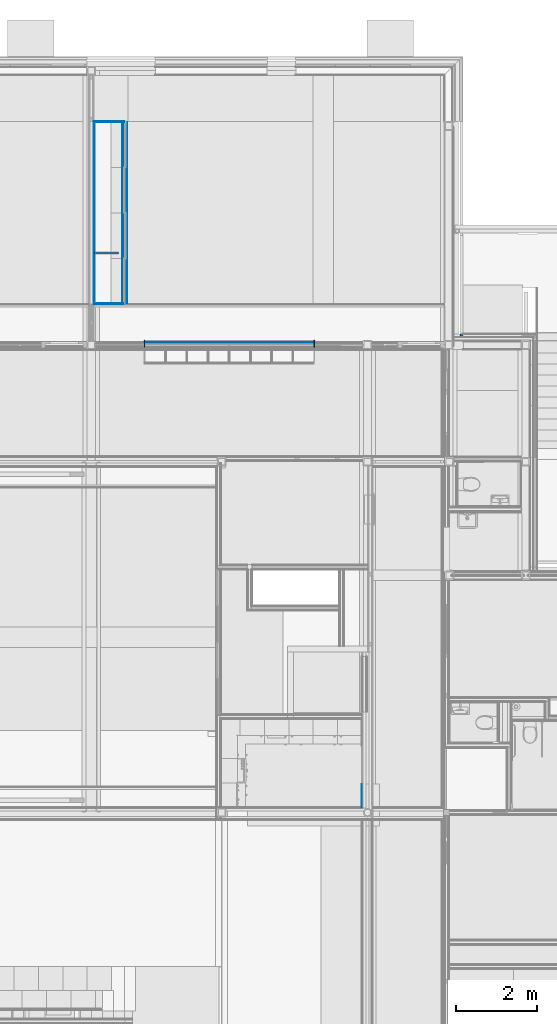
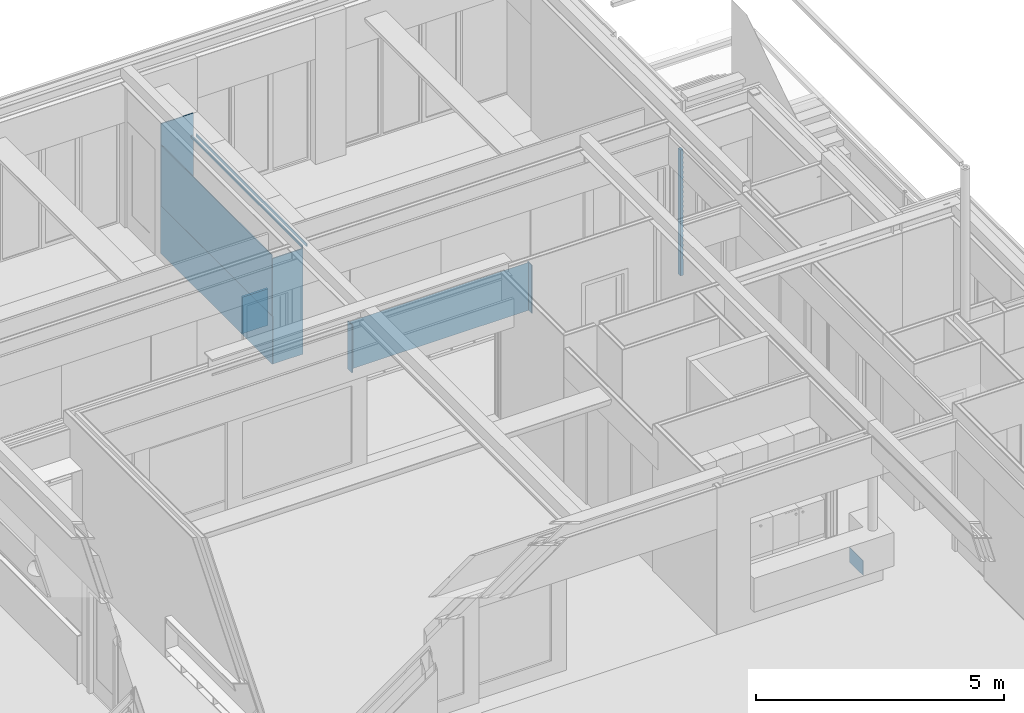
# One storey, part 26 of 165: 12 walls.
"""IFC2X3 building model written with IfcOpenShell, lengths in millimetres."""

import ifcopenshell
import ifcopenshell.guid

model = None  # the IFC model being written
_history = None  # IfcOwnerHistory: only IFC2X3 demands one
_inside = {}  # id of a spatial element -> (the spatial element, [elements in it])
_under = {}  # id of a project, library or spatial element -> (it, [spatial elements below it])
_declared = {}  # id of a project -> (the project, [libraries it declares])
_typed = {}  # id of a type object -> (the type object, [elements of that type])
_made_of = {}  # id of a material, layer set ... -> (it, [elements and type objects made of it])


def new_model(schema):
    """Start an empty IFC model of exactly this schema.

    Asked for "IFC4X3", IfcOpenShell would pick the latest addendum, in which some entities
    have other attributes; the version numbers below select the first issue.
    IFC2X3 requires an IfcOwnerHistory on every rooted entity: one is made here for all.
    """
    global model, _history
    if schema == "IFC4X3":
        model = ifcopenshell.file(schema_version=(4, 3, 0, 0))
    else:
        model = ifcopenshell.file(schema=schema)
    _inside.clear()
    _under.clear()
    _declared.clear()
    _typed.clear()
    _made_of.clear()
    _history = None
    if model.schema == "IFC2X3":
        org = make("IfcOrganization", Name="unknown")
        user = make(
            "IfcPersonAndOrganization",
            ThePerson=make("IfcPerson", FamilyName="unknown"),
            TheOrganization=org,
        )
        app = make(
            "IfcApplication",
            ApplicationDeveloper=org,
            Version="unknown",
            ApplicationFullName="unknown",
            ApplicationIdentifier="unknown",
        )
        _history = make(
            "IfcOwnerHistory",
            OwningUser=user,
            OwningApplication=app,
            ChangeAction="ADDED",
            CreationDate=0,
        )
    return model


def make(cls, **values):
    """One entity of the class cls with the attributes given. An attribute that is None is left unset."""
    return model.create_entity(
        cls, **{name: value for name, value in values.items() if value is not None}
    )


def entity(cls, *values):
    """Any entity or typed value of the class cls, its attributes in the order of the schema. None: left unset."""
    e = model.create_entity(cls)
    for i, value in enumerate(values):
        if value is not None:
            e[i] = value
    return e


def rooted(cls, **values):
    """An entity with a GlobalId (a new one), such as an element, a storey or a relation."""
    return make(cls, GlobalId=ifcopenshell.guid.new(), OwnerHistory=_history, **values)


def si_unit(unit_type, name, prefix=None):
    """IfcSIUnit, for example si_unit("LENGTHUNIT", "METRE", prefix="MILLI")."""
    return make("IfcSIUnit", UnitType=unit_type, Prefix=prefix, Name=name)


def converted_unit(unit_type, name, factor, base, dimensions=None, offset=None):
    """IfcConversionBasedUnit, such as the inch: factor (a typed value) times the base unit."""
    return make(
        "IfcConversionBasedUnit"
        if offset is None
        else "IfcConversionBasedUnitWithOffset",
        ConversionOffset=offset,
        Dimensions=None
        if dimensions is None
        else entity("IfcDimensionalExponents", *dimensions),
        UnitType=unit_type,
        Name=name,
        ConversionFactor=make(
            "IfcMeasureWithUnit", ValueComponent=factor, UnitComponent=base
        ),
    )


def derived_unit(unit_type, elements):
    """IfcDerivedUnit: a product of units, each with its exponent."""
    return make(
        "IfcDerivedUnit",
        Elements=[
            make("IfcDerivedUnitElement", Unit=unit, Exponent=power)
            for unit, power in elements
        ],
        UnitType=unit_type,
    )


def money_unit(currency):
    """IfcMonetaryUnit."""
    return make("IfcMonetaryUnit", Currency=currency)


def assignment(units):
    """IfcUnitAssignment: the units of a project."""
    return None if units is None else make("IfcUnitAssignment", Units=units)


def point(xyz):
    """IfcCartesianPoint."""
    return None if xyz is None else make("IfcCartesianPoint", Coordinates=xyz)


def direction(xyz):
    """IfcDirection."""
    return None if xyz is None else make("IfcDirection", DirectionRatios=xyz)


def frame(location, z_axis=None, x_axis=None):
    """IfcAxis2Placement3D, a coordinate frame: its origin and axes. An axis left out is left unset."""
    return make(
        "IfcAxis2Placement3D",
        Location=point(location),
        Axis=direction(z_axis),
        RefDirection=direction(x_axis),
    )


def origin_with_axes():
    """The frame at (0, 0, 0) with the z axis (0, 0, 1) and the x axis (1, 0, 0) written out."""
    return frame((0.0, 0.0, 0.0), z_axis=(0.0, 0.0, 1.0), x_axis=(1.0, 0.0, 0.0))


def place(relative_to, where):
    """IfcLocalPlacement: puts the frame where relative to a parent placement (None: the world)."""
    return make(
        "IfcLocalPlacement", PlacementRelTo=relative_to, RelativePlacement=where
    )


def context(
    kind, dimensions, precision=None, world=None, true_north=None, identifier=None
):
    """IfcGeometricRepresentationContext, for example the 3D "Model" context."""
    return make(
        "IfcGeometricRepresentationContext",
        ContextIdentifier=identifier,
        ContextType=kind,
        CoordinateSpaceDimension=dimensions,
        Precision=precision,
        WorldCoordinateSystem=world,
        TrueNorth=true_north,
    )


def subcontext(parent, identifier, kind, view, scale=None):
    """IfcGeometricRepresentationSubContext, for example "Body" below "Model"."""
    return make(
        "IfcGeometricRepresentationSubContext",
        ContextIdentifier=identifier,
        ContextType=kind,
        ParentContext=parent,
        TargetScale=scale,
        TargetView=view,
    )


def project(units=None, contexts=None):
    """IfcProject with its units and contexts."""
    return rooted(
        "IfcProject",
        Name="project",
        RepresentationContexts=contexts,
        UnitsInContext=assignment(units),
    )


def spatial(cls, under=None, at=None, **own):
    """A site, building, storey or space (cls), placed at a placement, below another one or the project."""
    s = rooted(cls, ObjectPlacement=at, **own)
    if under is not None:
        _under.setdefault(under.id(), (under, []))[1].append(s)
    return s


def faces_of(points, faces, orient=None, outer=None):
    """IfcFace entities. A face is a list of loops; a loop is a list of indices into points, from 0.

    orient and outer hold one flag for each loop. By default every Orientation is true, the
    first loop of a face is its IfcFaceOuterBound and the others are IfcFaceBound.
    """
    made = []
    for i, loops in enumerate(faces):
        bounds = []
        for j, loop in enumerate(loops):
            is_outer = j == 0 if outer is None else outer[i][j]
            bounds.append(
                make(
                    "IfcFaceOuterBound" if is_outer else "IfcFaceBound",
                    Bound=make("IfcPolyLoop", Polygon=[points[k] for k in loop]),
                    Orientation=True if orient is None else orient[i][j],
                )
            )
        made.append(make("IfcFace", Bounds=bounds))
    return made


def faceted_brep(points, faces, orient=None, outer=None, voids=None):
    """IfcFacetedBrep: a solid bounded by flat faces; with voids (closed shells), ...WithVoids."""
    shared = [point(p) for p in points]
    hull = make("IfcClosedShell", CfsFaces=faces_of(shared, faces, orient, outer))
    if voids is None:
        return make("IfcFacetedBrep", Outer=hull)
    return make(
        "IfcFacetedBrepWithVoids",
        Outer=hull,
        Voids=[
            make(cls, CfsFaces=faces_of(shared, fs, o, b)) for cls, fs, o, b in voids
        ],
    )


def shape(context_of_items, identifier, shape_type, items):
    """IfcShapeRepresentation: the items that make up one representation, for example the "Body"."""
    return make(
        "IfcShapeRepresentation",
        ContextOfItems=context_of_items,
        RepresentationIdentifier=identifier,
        RepresentationType=shape_type,
        Items=items,
    )


def material(Name=None, Category=None):
    """IfcMaterial."""
    return make("IfcMaterial", Name=Name, Category=Category)


def made_of(thing, what):
    """Note that an element or type object is made of a material, layer set ...; save() writes the relation."""
    if what is not None:
        _made_of.setdefault(what.id(), (what, []))[1].append(thing)
    return thing


def type_object(cls, material=None, **own):
    """A type object (cls), such as IfcWallType, which elements share."""
    return made_of(rooted(cls, **own), material)


def element(
    cls,
    number,
    at=None,
    inside=None,
    cuts=None,
    type_object=None,
    material=None,
    context=None,
    identifier="Body",
    shape_type=None,
    held_by="IfcProductDefinitionShape",
    body=None,
    shapes=None,
    **own,
):
    """One element of the class cls, such as IfcWall. Its Tag is "e" and its number.

    at: its placement. inside: the storey or other place that contains it. cuts: it is an
    opening in that element (IfcRelVoidsElement). A single representation is given by context,
    identifier, shape_type and body (its items); several are given by shapes. held_by: the class
    of the entity that holds the representations. save() writes the other relations.
    """
    e = rooted(cls, Tag="e%d" % number, ObjectPlacement=at, **own)
    if body is not None:
        shapes = [shape(context, identifier, shape_type, body)]
    if shapes is not None:
        e.Representation = make(held_by, Representations=shapes)
    if inside is not None:
        _inside.setdefault(inside.id(), (inside, []))[1].append(e)
    if cuts is not None:
        rooted(
            "IfcRelVoidsElement", RelatingBuildingElement=cuts, RelatedOpeningElement=e
        )
    if type_object is not None:
        _typed.setdefault(type_object.id(), (type_object, []))[1].append(e)
    return made_of(e, material)


def aggregate(whole, parts):
    """IfcRelAggregates: a whole, such as a stair, and the parts it consists of."""
    return rooted("IfcRelAggregates", RelatingObject=whole, RelatedObjects=parts)


def save(model, path):
    """Write the relations noted so far, then the file.

    IfcRelAggregates (storeys below a building ...), IfcRelContainedInSpatialStructure (elements
    in a storey), IfcRelDefinesByType, IfcRelAssociatesMaterial and IfcRelDeclares: one each for
    every whole, place, type object, material and project.
    """
    for whole, parts in _under.values():
        aggregate(whole, parts)
    for where, things in _inside.values():
        rooted(
            "IfcRelContainedInSpatialStructure",
            RelatedElements=things,
            RelatingStructure=where,
        )
    for kind, things in _typed.values():
        rooted("IfcRelDefinesByType", RelatedObjects=things, RelatingType=kind)
    for what, things in _made_of.values():
        rooted("IfcRelAssociatesMaterial", RelatedObjects=things, RelatingMaterial=what)
    for by, libraries in _declared.values():
        rooted("IfcRelDeclares", RelatingContext=by, RelatedDefinitions=libraries)
    model.write(path)


model = new_model("IFC2X3")

# Units and contexts
model_context = context("Model", 3, precision=0.01, world=origin_with_axes(), true_north=direction((0.0, 1.0)))
body_context = subcontext(model_context, "Body", "Model", "MODEL_VIEW")
ifc_project = project(units=[si_unit("LENGTHUNIT", "METRE", prefix="MILLI"), si_unit("AREAUNIT", "SQUARE_METRE"), si_unit("VOLUMEUNIT", "CUBIC_METRE"), converted_unit("PLANEANGLEUNIT", "DEGREE", entity("IfcPlaneAngleMeasure", 0.0174532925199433), si_unit("PLANEANGLEUNIT", "RADIAN"), dimensions=[0, 0, 0, 0, 0, 0, 0]), money_unit("EUR"), converted_unit("TIMEUNIT", "Year", entity("IfcTimeMeasure", 31556926.0), si_unit("TIMEUNIT", "SECOND"), dimensions=[0, 0, 1, 0, 0, 0, 0]), si_unit("MASSUNIT", "GRAM", prefix="KILO"), si_unit("THERMODYNAMICTEMPERATUREUNIT", "DEGREE_CELSIUS"), si_unit("LUMINOUSINTENSITYUNIT", "LUMEN"), si_unit("ENERGYUNIT", "JOULE", prefix="MEGA"), derived_unit("THERMALCONDUCTANCEUNIT", [(si_unit("POWERUNIT", "WATT"), 1), (si_unit("LENGTHUNIT", "METRE"), -1), (si_unit("THERMODYNAMICTEMPERATUREUNIT", "KELVIN"), -1)]), derived_unit("SPECIFICHEATCAPACITYUNIT", [(si_unit("ENERGYUNIT", "JOULE"), 1), (si_unit("MASSUNIT", "GRAM", prefix="KILO"), -1), (si_unit("THERMODYNAMICTEMPERATUREUNIT", "KELVIN"), -1)]), derived_unit("MASSDENSITYUNIT", [(si_unit("MASSUNIT", "GRAM", prefix="KILO"), 1), (si_unit("VOLUMEUNIT", "CUBIC_METRE"), -1)])], contexts=[model_context])

# Site, building, storey
site_placement = place(None, origin_with_axes())
site = spatial("IfcSite", under=ifc_project, at=site_placement, Name="Site", CompositionType="ELEMENT")
building_placement = place(site_placement, origin_with_axes())
building = spatial("IfcBuilding", under=site, at=building_placement, Name="Naam gebouw", CompositionType="ELEMENT")
storey_placement = place(building_placement, origin_with_axes())
storey = spatial("IfcBuildingStorey", under=building, at=storey_placement, Name="Begane grond", CompositionType="ELEMENT", Elevation=0.0)

# Walls
ifc_material_1 = material(Name="ALG - ALGEMEEN")
wall_type_1 = type_object("IfcWallType", Name="ALG - ALGEMEEN 5", PredefinedType="NOTDEFINED")
wall_1_placement = place(storey_placement, frame((24364.99907625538, 11504.9978722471, 2.000000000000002), z_axis=(0.0, 0.0, 1.0), x_axis=(0.0, -1.0, 0.0)))
element("IfcWall", 1, at=wall_1_placement, inside=storey, type_object=wall_type_1, material=ifc_material_1, Name="21_Wand-x", context=body_context, shape_type="Brep", body=[
    faceted_brep([(0.0, 0.0, 0.0), (0.0, -4.999999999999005, 0.0), (0.0, -4.999999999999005, 368.0), (0.0, 0.0, 368.0), (559.999058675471, 0.0, 0.0), (559.9990555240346, -4.999999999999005, 0.0), (559.9990555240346, -4.999999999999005, 368.0), (558.9972844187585, -4.999999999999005, 368.0), (559.999058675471, 0.0, 368.0)], [[[0, 1, 2, 3]], [[1, 0, 4, 5]], [[5, 6, 7, 2, 1]], [[7, 6, 8, 3, 2]], [[4, 0, 3, 8]], [[5, 4, 8, 6]]]),
])
ifc_material_2 = material(Name="Kurk")
wall_type_2 = type_object("IfcWallType", Name="Kurk 6", PredefinedType="NOTDEFINED")
wall_2_placement = place(storey_placement, frame((19019.99919486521, 22387.47926947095, 0.0), z_axis=(0.0, 0.0, 1.0), x_axis=(1.0, 0.0, 0.0)))
element("IfcWall", 2, at=wall_2_placement, inside=storey, type_object=wall_type_2, material=ifc_material_2, Name="21_Wand-x", context=body_context, shape_type="Brep", body=[
    faceted_brep([(0.0, 6.000000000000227, 0.0), (4159.999904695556, 6.000000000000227, 0.0), (4159.999904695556, 0.0, 0.0), (0.0, 0.0, 0.0), (0.0, 6.000000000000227, 1180.0), (4159.999904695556, 6.000000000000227, 1180.0), (4159.999904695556, 0.0, 1180.0), (0.0, 0.0, 1180.0)], [[[0, 1, 2, 3]], [[4, 5, 1, 0]], [[2, 1, 5, 6]], [[3, 2, 6, 7]], [[4, 0, 3, 7]], [[7, 6, 5, 4]]]),
])
ifc_material_3 = material(Name="Hout - Multiplex")
wall_type_3 = type_object("IfcWallType", Name="Hout - Multiplex 20", PredefinedType="NOTDEFINED")
wall_3_placement = place(storey_placement, frame((18482.49942456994, 23347.99984707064, 0.0), z_axis=(0.0, 0.0, 1.0), x_axis=(-1.0, 0.0, 0.0)))
element("IfcWall", 3, at=wall_3_placement, inside=storey, type_object=wall_type_3, material=ifc_material_3, Name="21_Wand-x", context=body_context, shape_type="Brep", body=[
    faceted_brep([(719.9999999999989, 0.0, 0.0), (719.9999999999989, 0.0, 2.000000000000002), (699.9999999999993, 0.0, 2.000000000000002), (699.9999999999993, 0.0, 1182.0), (719.9999999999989, 0.0, 1182.0), (719.9999999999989, 0.0, 2600.0), (0.0, 0.0, 2600.0), (0.0, 0.0, 0.0), (719.9999999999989, 19.99999999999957, 0.0), (719.9999999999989, 19.99999999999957, 2.000000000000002), (699.9999999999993, 19.99999999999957, 2.000000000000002), (699.9999999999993, 19.99999999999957, 1182.0), (719.9999999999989, 19.99999999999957, 1182.0), (719.9999999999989, 19.99999999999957, 2600.0), (0.0, 19.99999999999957, 2600.0), (0.0, 19.99999999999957, 0.0)], [[[0, 1, 2, 3, 4, 5, 6, 7]], [[8, 9, 1, 0]], [[10, 2, 1, 9]], [[11, 3, 2, 10]], [[12, 4, 3, 11]], [[5, 4, 12, 13]], [[14, 6, 5, 13]], [[7, 6, 14, 15]], [[7, 15, 8, 0]], [[11, 10, 9, 8, 15, 14, 13, 12]]]),
])
wall_4_placement = place(storey_placement, frame((18512.49942456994, 27807.99984707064, 0.0), z_axis=(0.0, 0.0, 1.0), x_axis=(-1.0, 0.0, 0.0)))
element("IfcWall", 4, at=wall_4_placement, inside=storey, type_object=wall_type_3, material=ifc_material_3, Name="21_Wand-x", context=body_context, shape_type="Brep", body=[
    faceted_brep([(750.0, -19.99999999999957, 0.0), (750.0, -19.99999999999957, 2.000000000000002), (730.0000000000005, -19.99999999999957, 2.000000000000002), (730.0000000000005, -19.99999999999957, 1182.0), (750.0, -19.99999999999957, 1182.0), (750.0, -19.99999999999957, 3200.0), (0.0, -19.99999999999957, 3200.0), (0.0, -19.99999999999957, 0.0), (750.0, 0.0, 0.0), (750.0, 0.0, 2.000000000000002), (730.0000000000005, 0.0, 2.000000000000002), (730.0000000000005, 0.0, 1182.0), (750.0, 0.0, 1182.0), (750.0, 0.0, 3200.0), (0.0, 0.0, 3200.0), (0.0, 0.0, 0.0)], [[[0, 1, 2, 3, 4, 5, 6, 7]], [[8, 9, 1, 0]], [[10, 2, 1, 9]], [[11, 3, 2, 10]], [[12, 4, 3, 11]], [[5, 4, 12, 13]], [[14, 6, 5, 13]], [[14, 15, 7, 6]], [[7, 15, 8, 0]], [[11, 10, 9, 8, 15, 14, 13, 12]]]),
])
wall_5_placement = place(storey_placement, frame((17764.49942456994, 23347.99984707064, 1182.0), z_axis=(0.0, 0.0, 1.0), x_axis=(0.0, 1.0, 0.0)))
element("IfcWall", 5, at=wall_5_placement, inside=storey, type_object=wall_type_3, material=ifc_material_3, Name="21_Wand-x", context=body_context, shape_type="Brep", body=[
    faceted_brep([(0.0, 0.0, 1488.0), (0.0, 0.0, 1418.0), (0.0, -19.99999999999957, 1418.0), (0.0, -19.99999999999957, 1488.0), (4460.000000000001, 0.0, 0.0), (0.0, 0.0, 0.0), (4460.000000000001, 0.0, 1488.0), (0.0, -19.99999999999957, 0.0), (4460.000000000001, -19.99999999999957, 0.0), (4460.000000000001, -19.99999999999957, 1488.0)], [[[0, 1, 2, 3]], [[4, 5, 1, 0, 6]], [[5, 7, 2, 1]], [[3, 2, 7, 8, 9]], [[9, 6, 0, 3]], [[8, 7, 5, 4]], [[6, 9, 8, 4]]]),
])
wall_6_placement = place(storey_placement, frame((17762.49942456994, 23347.99984707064, 2.0), z_axis=(0.0, 0.0, 1.0), x_axis=(0.0, 1.0, 0.0)))
element("IfcWall", 6, at=wall_6_placement, inside=storey, type_object=wall_type_3, material=ifc_material_3, Name="21_Wand-x", context=body_context, shape_type="Brep", body=[
    faceted_brep([(4480.0, -19.99999999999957, 1180.0), (4480.0, 0.0, 1180.0), (-19.99999999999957, 0.0, 1180.0), (-19.99999999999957, -19.99999999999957, 1180.0), (4480.0, -19.99999999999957, 0.0), (4480.0, 0.0, 0.0), (-19.99999999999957, 0.0, 0.0), (-19.99999999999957, -19.99999999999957, 0.0)], [[[0, 1, 2, 3]], [[1, 0, 4, 5]], [[1, 5, 6, 2]], [[7, 3, 2, 6]], [[4, 0, 3, 7]], [[5, 4, 7, 6]]]),
])
wall_7_placement = place(storey_placement, frame((18464.49942456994, 23347.99984707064, 2600.0), z_axis=(0.0, 0.0, 1.0), x_axis=(0.0, 1.0, 0.0)))
element("IfcWall", 7, at=wall_7_placement, inside=storey, type_object=wall_type_3, material=ifc_material_3, Name="21_Wand-x", context=body_context, shape_type="Brep", body=[
    faceted_brep([(4460.000000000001, -19.99999999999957, 69.99999999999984), (4460.000000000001, 0.0, 69.99999999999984), (0.0, 0.0, 69.99999999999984), (0.0, -19.99999999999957, 69.99999999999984), (4460.000000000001, -19.99999999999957, 0.0), (4460.000000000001, 0.0, 0.0), (0.0, 0.0, 0.0), (0.0, -19.99999999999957, 0.0)], [[[0, 1, 2, 3]], [[1, 0, 4, 5]], [[1, 5, 6, 2]], [[7, 3, 2, 6]], [[4, 0, 3, 7]], [[5, 4, 7, 6]]]),
])
wall_8_placement = place(storey_placement, frame((18569.49942456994, 23347.99984707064, 2600.0), z_axis=(0.0, 0.0, 1.0), x_axis=(0.0, 1.0, 0.0)))
element("IfcWall", 8, at=wall_8_placement, inside=storey, type_object=wall_type_3, material=ifc_material_3, Name="21_Wand-x", context=body_context, shape_type="Brep", body=[
    faceted_brep([(0.0, -19.99999999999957, 69.99999999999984), (4460.000000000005, -19.99999999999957, 69.99999999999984), (4460.000000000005, 0.0, 69.99999999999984), (0.0, 0.0, 69.99999999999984), (0.0, -19.99999999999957, 0.0), (4460.000000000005, -19.99999999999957, 0.0), (4460.000000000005, 0.0, 0.0), (0.0, 0.0, 0.0)], [[[0, 1, 2, 3]], [[4, 5, 1, 0]], [[2, 1, 5, 6]], [[3, 2, 6, 7]], [[4, 0, 3, 7]], [[7, 6, 5, 4]]]),
])
wall_9_placement = place(storey_placement, frame((23199.99909956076, 22262.47925041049, 0.0), z_axis=(0.0, 0.0, 1.0), x_axis=(0.0, 1.0, 0.0)))
element("IfcWall", 9, at=wall_9_placement, inside=storey, type_object=wall_type_3, material=ifc_material_3, Name="21_Wand-x", context=body_context, shape_type="Brep", body=[
    faceted_brep([(174.9999999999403, 19.99999999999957, 0.0), (174.9999999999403, 19.99999999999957, 1180.000000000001), (174.9999999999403, 0.0, 1180.000000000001), (174.9999999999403, 0.0, 0.0), (0.0, 19.99999999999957, 0.0), (0.0, 19.99999999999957, 1180.000000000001), (0.0, 0.0, 1180.000000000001), (0.0, 0.0, 0.0)], [[[0, 1, 2, 3]], [[4, 5, 1, 0]], [[5, 6, 2, 1]], [[3, 2, 6, 7]], [[7, 4, 0, 3]], [[7, 6, 5, 4]]]),
])
wall_10_placement = place(storey_placement, frame((18999.99886130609, 22262.48325312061, 0.0), z_axis=(0.0, 0.0, 1.0), x_axis=(1.906052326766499e-06, 0.9999999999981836, 0.0)))
element("IfcWall", 10, at=wall_10_placement, inside=storey, type_object=wall_type_3, material=ifc_material_3, Name="21_Wand-x", context=body_context, shape_type="Brep", body=[
    faceted_brep([(174.9999999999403, 0.0, 0.0), (174.9959972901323, -7.627676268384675e-09, 1180.000000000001), (174.9960354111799, -20.0000000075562, 1180.000000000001), (174.9999999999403, -19.99999999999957, 0.0), (0.0, 0.0, 0.0), (-0.004002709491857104, -0.0003335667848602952, 1180.000000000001), (-0.003964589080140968, -20.0000000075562, 1180.000000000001), (0.0, -19.99999999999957, 0.0)], [[[0, 1, 2, 3]], [[4, 5, 1, 0]], [[5, 6, 2, 1]], [[3, 2, 6, 7]], [[7, 4, 0, 3]], [[7, 6, 5, 4]]]),
])
ifc_material_4 = material(Name="Steen - Baksteen")
wall_type_4 = type_object("IfcWallType", Name="Steen - Baksteen 70", PredefinedType="NOTDEFINED")
wall_11_placement = place(storey_placement, frame((26850.0, 22592.97623767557, -485.0), z_axis=(0.0, 0.0, 1.0), x_axis=(0.0, -1.0, 0.0)))
element("IfcWall", 11, at=wall_11_placement, inside=storey, type_object=wall_type_4, material=ifc_material_4, Name="21_Wand-x", context=body_context, shape_type="Brep", body=[
    faceted_brep([(0.0, 0.0, 514.9999766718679), (90.99999999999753, 0.0, 514.9999766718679), (90.99999999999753, 0.0, 465.0000396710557), (0.0, 0.0, 465.0000396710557), (0.0, -4.999977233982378, 514.9999766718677), (90.99999999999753, -4.999977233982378, 514.9999766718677), (90.99999999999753, -4.999977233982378, 3035.000036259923), (90.99999999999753, -4.999977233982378, 3095.000008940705), (90.99999999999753, -70.00000000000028, 3095.0), (90.99999999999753, -70.00000000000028, 0.0), (90.99999999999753, 0.0, 0.0), (90.99999999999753, 0.0, 395.0000313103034), (90.99999999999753, -4.999977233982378, 395.0000313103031), (90.99999999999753, -4.999977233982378, 465.0000396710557), (90.99999999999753, -4.999977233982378, 584.999944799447), (90.99999999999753, 0.0, 584.999944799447), (90.99999999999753, 0.0, 635.0000427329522), (90.99999999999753, -4.999977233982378, 635.0000427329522), (90.99999999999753, -4.999977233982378, 705.0000108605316), (90.99999999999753, 0.0, 705.0000108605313), (90.99999999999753, 0.0, 754.9999478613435), (90.99999999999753, -4.999977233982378, 754.9999478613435), (90.99999999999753, -4.999977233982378, 824.9999562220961), (90.99999999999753, 0.0, 824.9999562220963), (90.99999999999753, 0.0, 875.0000139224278), (90.99999999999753, -4.999977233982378, 875.0000139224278), (90.99999999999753, -4.999977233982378, 945.0000222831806), (90.99999999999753, 0.0, 945.0000222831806), (90.99999999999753, 0.0, 994.999999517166), (90.99999999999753, -4.999977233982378, 994.9999995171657), (90.99999999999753, -4.999977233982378, 1064.999927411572), (90.99999999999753, 0.0, 1064.999927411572), (90.99999999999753, 0.0, 1115.000025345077), (90.99999999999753, -4.999977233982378, 1115.000025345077), (90.99999999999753, -4.999977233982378, 1184.999993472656), (90.99999999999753, 0.0, 1184.999993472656), (90.99999999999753, 0.0, 1234.999970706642), (90.99999999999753, -4.999977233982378, 1234.999970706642), (90.99999999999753, -4.999977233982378, 1304.999979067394), (90.99999999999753, 0.0, 1304.999979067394), (90.99999999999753, 0.0, 1354.999996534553), (90.99999999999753, -4.999977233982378, 1354.999996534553), (90.99999999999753, -4.999977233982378, 1425.000004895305), (90.99999999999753, 0.0, 1425.000004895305), (90.99999999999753, 0.0, 1474.999982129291), (90.99999999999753, -4.999977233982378, 1474.999982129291), (90.99999999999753, -4.999977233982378, 1544.99995025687), (90.99999999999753, 0.0, 1544.99995025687), (90.99999999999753, 0.0, 1595.000007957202), (90.99999999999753, -4.999977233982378, 1595.000007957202), (90.99999999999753, -4.999977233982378, 1664.999976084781), (90.99999999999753, 0.0, 1664.999976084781), (90.99999999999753, 0.0, 1714.999993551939), (90.99999999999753, -4.999977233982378, 1714.999993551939), (90.99999999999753, -4.999977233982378, 1784.999961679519), (90.99999999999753, 0.0, 1784.999961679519), (90.99999999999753, 0.0, 1835.000019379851), (90.99999999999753, -4.999977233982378, 1835.000019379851), (90.99999999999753, -4.999977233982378, 1905.000027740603), (90.99999999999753, 0.0, 1905.000027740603), (90.99999999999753, 0.0, 1954.999964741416), (90.99999999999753, -4.999977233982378, 1954.999964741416), (90.99999999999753, -4.999977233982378, 2024.999973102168), (90.99999999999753, 0.0, 2024.999973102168), (90.99999999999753, 0.0, 2075.0000308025), (90.99999999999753, -4.999977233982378, 2075.0000308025), (90.99999999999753, -4.999977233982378, 2144.99999893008), (90.99999999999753, 0.0, 2144.99999893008), (90.99999999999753, 0.0, 2194.999976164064), (90.99999999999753, -4.999977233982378, 2194.999976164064), (90.99999999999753, -4.999977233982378, 2264.999944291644), (90.99999999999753, 0.0, 2264.999944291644), (90.99999999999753, 0.0, 2315.000001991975), (90.99999999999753, -4.999977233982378, 2315.000001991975), (90.99999999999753, -4.999977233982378, 2385.000010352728), (90.99999999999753, 0.0, 2385.000010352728), (90.99999999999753, 0.0, 2434.999987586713), (90.99999999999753, -4.999977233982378, 2434.999987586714), (90.99999999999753, -4.999977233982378, 2504.999995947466), (90.99999999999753, 0.0, 2504.999995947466), (90.99999999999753, 0.0, 2555.000013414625), (90.99999999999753, -4.999977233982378, 2555.000013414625), (90.99999999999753, -4.999977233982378, 2625.000021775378), (90.99999999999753, 0.0, 2625.000021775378), (90.99999999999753, 0.0, 2674.999999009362), (90.99999999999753, -4.999977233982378, 2674.999999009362), (90.99999999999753, -4.999977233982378, 2744.999967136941), (90.99999999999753, 0.0, 2744.999967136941), (90.99999999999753, 0.0, 2795.000024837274), (90.99999999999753, -4.999977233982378, 2795.000024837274), (90.99999999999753, -4.999977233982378, 2864.999992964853), (90.99999999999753, 0.0, 2864.999992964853), (90.99999999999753, 0.0, 2914.999970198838), (90.99999999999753, -4.999977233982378, 2914.999970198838), (90.99999999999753, -4.999977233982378, 2984.999978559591), (90.99999999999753, 0.0, 2984.999978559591), (90.99999999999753, 0.0, 3035.000036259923), (0.0, -4.999977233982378, 465.0000396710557), (0.0, -4.999977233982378, 3095.000008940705), (0.0, -4.999977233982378, 3035.000036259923), (0.0, 0.0, 3035.000036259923), (0.0, 0.0, 2984.999978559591), (0.0, -4.999977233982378, 2984.999978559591), (0.0, -4.999977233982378, 2914.999970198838), (0.0, 0.0, 2914.999970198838), (0.0, 0.0, 2864.999992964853), (0.0, -4.999977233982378, 2864.999992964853), (0.0, -4.999977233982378, 2795.000024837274), (0.0, 0.0, 2795.000024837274), (0.0, 0.0, 2744.999967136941), (0.0, -4.999977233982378, 2744.999967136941), (0.0, -4.999977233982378, 2674.999999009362), (0.0, 0.0, 2674.999999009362), (0.0, 0.0, 2625.000021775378), (0.0, -4.999977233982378, 2625.000021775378), (0.0, -4.999977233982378, 2555.000013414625), (0.0, 0.0, 2555.000013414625), (0.0, 0.0, 2504.999995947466), (0.0, -4.999977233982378, 2504.999995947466), (0.0, -4.999977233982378, 2434.999987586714), (0.0, 0.0, 2434.999987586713), (0.0, 0.0, 2385.000010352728), (0.0, -4.999977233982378, 2385.000010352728), (0.0, -4.999977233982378, 2315.000001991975), (0.0, 0.0, 2315.000001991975), (0.0, 0.0, 2264.999944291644), (0.0, -4.999977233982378, 2264.999944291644), (0.0, -4.999977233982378, 2194.999976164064), (0.0, 0.0, 2194.999976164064), (0.0, 0.0, 2144.99999893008), (0.0, -4.999977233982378, 2144.99999893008), (0.0, -4.999977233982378, 2075.0000308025), (0.0, 0.0, 2075.0000308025), (0.0, 0.0, 2024.999973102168), (0.0, -4.999977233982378, 2024.999973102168), (0.0, -4.999977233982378, 1954.999964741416), (0.0, 0.0, 1954.999964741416), (0.0, 0.0, 1905.000027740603), (0.0, -4.999977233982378, 1905.000027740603), (0.0, -4.999977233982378, 1835.000019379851), (0.0, 0.0, 1835.000019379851), (0.0, 0.0, 1784.999961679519), (0.0, -4.999977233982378, 1784.999961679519), (0.0, -4.999977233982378, 1714.999993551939), (0.0, 0.0, 1714.999993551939), (0.0, 0.0, 1664.999976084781), (0.0, -4.999977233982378, 1664.999976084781), (0.0, -4.999977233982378, 1595.000007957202), (0.0, 0.0, 1595.000007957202), (0.0, 0.0, 1544.99995025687), (0.0, -4.999977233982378, 1544.99995025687), (0.0, -4.999977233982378, 1474.999982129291), (0.0, 0.0, 1474.999982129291), (0.0, 0.0, 1425.000004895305), (0.0, -4.999977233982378, 1425.000004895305), (0.0, -4.999977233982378, 1354.999996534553), (0.0, 0.0, 1354.999996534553), (0.0, 0.0, 1304.999979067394), (0.0, -4.999977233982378, 1304.999979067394), (0.0, -4.999977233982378, 1234.999970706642), (0.0, 0.0, 1234.999970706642), (0.0, 0.0, 1184.999993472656), (0.0, -4.999977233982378, 1184.999993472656), (0.0, -4.999977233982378, 1115.000025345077), (0.0, 0.0, 1115.000025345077), (0.0, 0.0, 1064.999927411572), (0.0, -4.999977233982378, 1064.999927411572), (0.0, -4.999977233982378, 994.9999995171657), (0.0, 0.0, 994.999999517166), (0.0, 0.0, 945.0000222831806), (0.0, -4.999977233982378, 945.0000222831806), (0.0, -4.999977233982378, 875.0000139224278), (0.0, 0.0, 875.0000139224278), (0.0, 0.0, 824.9999562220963), (0.0, -4.999977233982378, 824.9999562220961), (0.0, -4.999977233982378, 754.9999478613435), (0.0, 0.0, 754.9999478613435), (0.0, 0.0, 705.0000108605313), (0.0, -4.999977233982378, 705.0000108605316), (0.0, -4.999977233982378, 635.0000427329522), (0.0, 0.0, 635.0000427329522), (0.0, 0.0, 584.999944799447), (0.0, -4.999977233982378, 584.999944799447), (0.0, -4.999977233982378, 395.0000313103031), (0.0, 0.0, 395.0000313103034), (0.0, 0.0, 0.0), (0.0, -70.00000000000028, 0.0), (0.0, -70.00000000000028, 3095.0)], [[[0, 1, 2, 3]], [[1, 0, 4, 5]], [[6, 7, 8, 9, 10, 11, 12, 13, 2, 1, 5, 14, 15, 16, 17, 18, 19, 20, 21, 22, 23, 24, 25, 26, 27, 28, 29, 30, 31, 32, 33, 34, 35, 36, 37, 38, 39, 40, 41, 42, 43, 44, 45, 46, 47, 48, 49, 50, 51, 52, 53, 54, 55, 56, 57, 58, 59, 60, 61, 62, 63, 64, 65, 66, 67, 68, 69, 70, 71, 72, 73, 74, 75, 76, 77, 78, 79, 80, 81, 82, 83, 84, 85, 86, 87, 88, 89, 90, 91, 92, 93, 94, 95, 96]], [[97, 3, 2, 13]], [[98, 99, 100, 101, 102, 103, 104, 105, 106, 107, 108, 109, 110, 111, 112, 113, 114, 115, 116, 117, 118, 119, 120, 121, 122, 123, 124, 125, 126, 127, 128, 129, 130, 131, 132, 133, 134, 135, 136, 137, 138, 139, 140, 141, 142, 143, 144, 145, 146, 147, 148, 149, 150, 151, 152, 153, 154, 155, 156, 157, 158, 159, 160, 161, 162, 163, 164, 165, 166, 167, 168, 169, 170, 171, 172, 173, 174, 175, 176, 177, 178, 179, 180, 181, 182, 4, 0, 3, 97, 183, 184, 185, 186, 187]], [[4, 182, 14, 5]], [[99, 98, 7, 6]], [[7, 98, 187, 8]], [[187, 186, 9, 8]], [[186, 185, 10, 9]], [[184, 11, 10, 185]], [[11, 184, 183, 12]], [[183, 97, 13, 12]], [[182, 181, 15, 14]], [[180, 16, 15, 181]], [[16, 180, 179, 17]], [[179, 178, 18, 17]], [[178, 177, 19, 18]], [[176, 20, 19, 177]], [[20, 176, 175, 21]], [[175, 174, 22, 21]], [[174, 173, 23, 22]], [[172, 24, 23, 173]], [[24, 172, 171, 25]], [[171, 170, 26, 25]], [[170, 169, 27, 26]], [[168, 28, 27, 169]], [[28, 168, 167, 29]], [[167, 166, 30, 29]], [[166, 165, 31, 30]], [[164, 32, 31, 165]], [[32, 164, 163, 33]], [[163, 162, 34, 33]], [[162, 161, 35, 34]], [[160, 36, 35, 161]], [[36, 160, 159, 37]], [[159, 158, 38, 37]], [[158, 157, 39, 38]], [[156, 40, 39, 157]], [[40, 156, 155, 41]], [[155, 154, 42, 41]], [[154, 153, 43, 42]], [[152, 44, 43, 153]], [[44, 152, 151, 45]], [[151, 150, 46, 45]], [[150, 149, 47, 46]], [[148, 48, 47, 149]], [[48, 148, 147, 49]], [[147, 146, 50, 49]], [[146, 145, 51, 50]], [[144, 52, 51, 145]], [[52, 144, 143, 53]], [[143, 142, 54, 53]], [[142, 141, 55, 54]], [[140, 56, 55, 141]], [[56, 140, 139, 57]], [[139, 138, 58, 57]], [[138, 137, 59, 58]], [[136, 60, 59, 137]], [[60, 136, 135, 61]], [[135, 134, 62, 61]], [[134, 133, 63, 62]], [[132, 64, 63, 133]], [[64, 132, 131, 65]], [[131, 130, 66, 65]], [[130, 129, 67, 66]], [[128, 68, 67, 129]], [[68, 128, 127, 69]], [[127, 126, 70, 69]], [[126, 125, 71, 70]], [[124, 72, 71, 125]], [[72, 124, 123, 73]], [[123, 122, 74, 73]], [[122, 121, 75, 74]], [[120, 76, 75, 121]], [[76, 120, 119, 77]], [[119, 118, 78, 77]], [[118, 117, 79, 78]], [[116, 80, 79, 117]], [[80, 116, 115, 81]], [[115, 114, 82, 81]], [[114, 113, 83, 82]], [[112, 84, 83, 113]], [[84, 112, 111, 85]], [[111, 110, 86, 85]], [[110, 109, 87, 86]], [[108, 88, 87, 109]], [[88, 108, 107, 89]], [[107, 106, 90, 89]], [[106, 105, 91, 90]], [[104, 92, 91, 105]], [[92, 104, 103, 93]], [[103, 102, 94, 93]], [[102, 101, 95, 94]], [[100, 96, 95, 101]], [[96, 100, 99, 6]]]),
])
wall_type_5 = type_object("IfcWallType", Name="Hout - Multiplex 50", PredefinedType="NOTDEFINED")
wall_12_placement = place(storey_placement, frame((18373.49942456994, 24607.99984707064, 0.0), z_axis=(0.0, 0.0, 1.0), x_axis=(-1.0, 0.0, 0.0)))
element("IfcWall", 12, at=wall_12_placement, inside=storey, type_object=wall_type_5, material=ifc_material_3, Name="21_Wand-x", context=body_context, shape_type="Brep", body=[
    faceted_brep([(611.0000000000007, 0.0, 0.0), (611.0000000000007, 0.0, 2.000000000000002), (591.0000000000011, 0.0, 2.000000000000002), (591.0000000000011, 0.0, 900.0), (0.0, 0.0, 900.0), (0.0, 0.0, 0.0), (611.0000000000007, 50.00000000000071, 0.0), (611.0000000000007, 50.00000000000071, 2.000000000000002), (591.0000000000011, 50.00000000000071, 2.000000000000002), (591.0000000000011, 50.00000000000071, 900.0), (0.0, 50.00000000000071, 900.0), (0.0, 50.00000000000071, 0.0)], [[[0, 1, 2, 3, 4, 5]], [[6, 7, 1, 0]], [[8, 2, 1, 7]], [[8, 9, 3, 2]], [[4, 3, 9, 10]], [[5, 4, 10, 11]], [[5, 11, 6, 0]], [[9, 8, 7, 6, 11, 10]]]),
])

save(model, "model.ifc")
